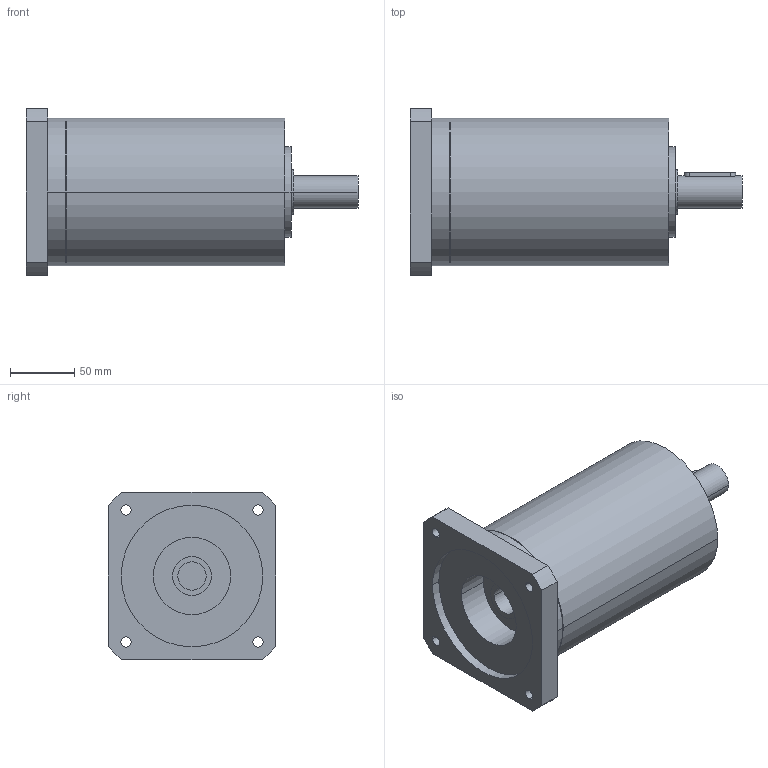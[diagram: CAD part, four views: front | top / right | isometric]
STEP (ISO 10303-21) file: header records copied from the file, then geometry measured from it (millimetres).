
FILE_DESCRIPTION(('CoCreate Modeling STEP Export'),'2;1');
FILE_NAME('GPR125_ig-9-12-16-20-28-35_25_B14_22_P11.stp','2014-08-26T14:11:01',(''),(''),'CoCreate Modeling STEP processor for AP214 (Solid Model)','CoCreate Modeling 16.00C 25-Feb-2009 (C) Parametric Technology GmbH','');
FILE_SCHEMA(('AUTOMOTIVE_DESIGN { 1 0 10303 214 1 1 1 1 }'));
Length unit declared in the file: millimetre
Products named in the file (2): GPR125_ig-9-12-16-20-28-35_25_B14_22_P11
Assembly tree (1 placements, depth 2):
  GPR125_ig-9-12-16-20-28-35_25_B14_22_P11
    GPR125_ig-9-12-16-20-28-35_25_B14_22_P11
Bounding box: 258 x 130 x 130 mm (x, y, z)
Volume: 2082496.3 mm3; surface area: 129451.7 mm2
Topology: 1 solids, 1 shells, 68 faces, 185 edges, 131 vertices
Faces by surface type: cylinder 42, plane 22, cone 4
Entity records: 1913 total; most frequent: ORIENTED_EDGE 366, CARTESIAN_POINT 360, DIRECTION 258, EDGE_CURVE 183, VERTEX_POINT 131, AXIS2_PLACEMENT_3D 97, EDGE_LOOP 90, FACE_OUTER_BOUND 68
